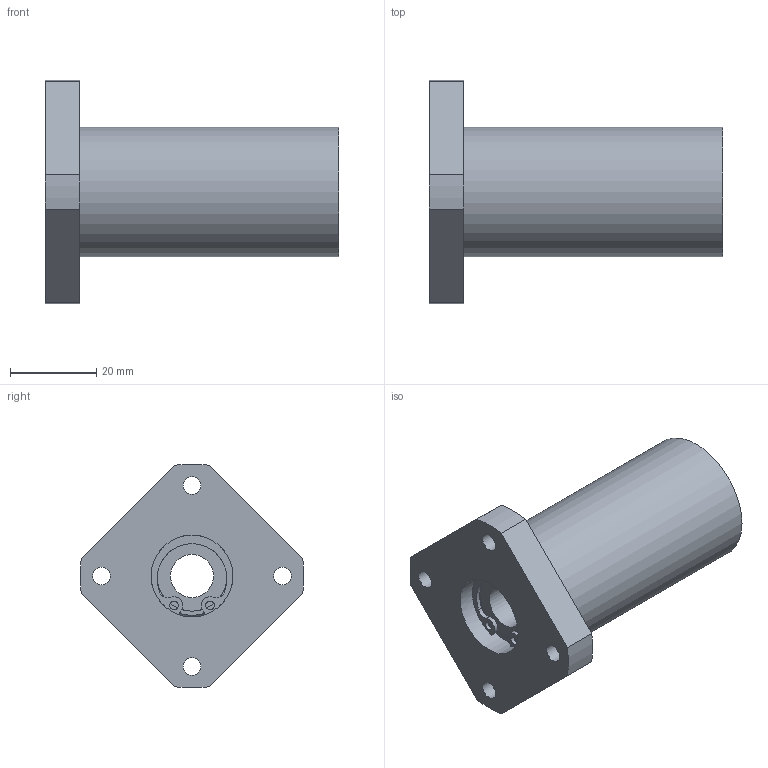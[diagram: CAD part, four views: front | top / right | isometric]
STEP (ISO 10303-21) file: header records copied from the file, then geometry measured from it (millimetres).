
FILE_DESCRIPTION((''),'2;1');
FILE_NAME('D:\製品 (図面)\カタログ用3D\リニアベアリング関連(改)\STEP形式\LFWK\LFWK10.stp','2010-01-22T15:51:31',('Tsuchiya'),(''),'Autodesk Inventor 10','Autodesk Inventor 10','');
FILE_SCHEMA(('AUTOMOTIVE_DESIGN { 1 0 10303 214 1 1 1 1 }'));
Length unit declared in the file: millimetre
Products named in the file (1): LFWK10
Bounding box: 68 x 51.93 x 51.93 mm (x, y, z)
Volume: 48174.4 mm3; surface area: 14545.1 mm2
Topology: 1 solids, 6 shells, 86 faces, 212 edges, 133 vertices
Faces by surface type: bspline 31, cylinder 28, plane 25, torus 2
Full cylindrical faces by diameter (mm): 2 x2, 4.134 x4, 10 x1, 16.3 x2, 18 x2, 19 x7, 30 x1
Entity records: 2578 total; most frequent: CARTESIAN_POINT 698, DIRECTION 398, ORIENTED_EDGE 330, AXIS2_PLACEMENT_3D 177, EDGE_CURVE 165, EDGE_LOOP 144, CIRCLE 121, VERTEX_POINT 117
